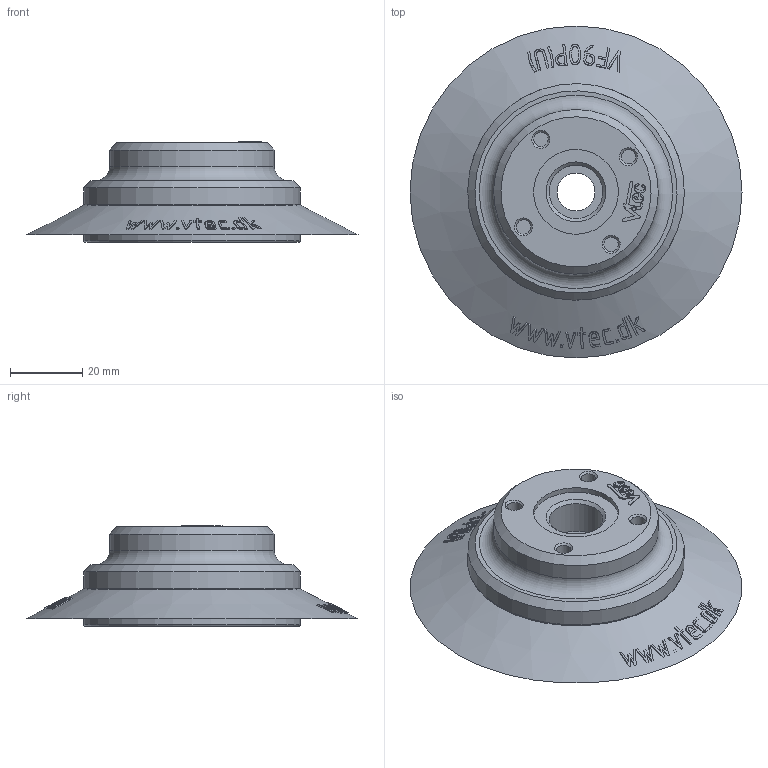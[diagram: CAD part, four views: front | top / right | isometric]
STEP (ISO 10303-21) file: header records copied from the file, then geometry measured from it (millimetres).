
FILE_DESCRIPTION( ( 'STEP AP203' ), '1' );
FILE_NAME( 'C:/Documents and Settings/Owner/官帕 拳搁/3D/Vacuum Pad/VF series/VF90-38F.stp', '2006-04-25T04:58:37', ( ' ' ), ( ' ' ), 'XStep 1.0', ' ', ' ' );
FILE_SCHEMA( ( 'CONFIG_CONTROL_DESIGN) ( )' ) );
Length unit declared in the file: metre
Products named in the file (3): Assem1; 1; 2
Bounding box: 92 x 92 x 27.85 mm (x, y, z)
Volume: 97683.6 mm3; surface area: 53019.4 mm2
Topology: 4 solids, 4 shells, 1240 faces, 3358 edges, 2216 vertices
Faces by surface type: plane 574, cylinder 298, bspline 284, cone 72, torus 8, extrusion 4
Full cylindrical faces by diameter (mm): 0.791 x2, 4 x16, 6.4 x8, 10.5 x2, 14.9 x2, 15 x2, 23.5 x2, 45.6 x2, 55 x4, 60 x2
Entity records: 27139 total; most frequent: CARTESIAN_POINT 12342, ORIENTED_EDGE 3258, DIRECTION 2603, EDGE_CURVE 1629, VERTEX_POINT 1097, VECTOR 935, LINE 933, AXIS2_PLACEMENT_3D 834
